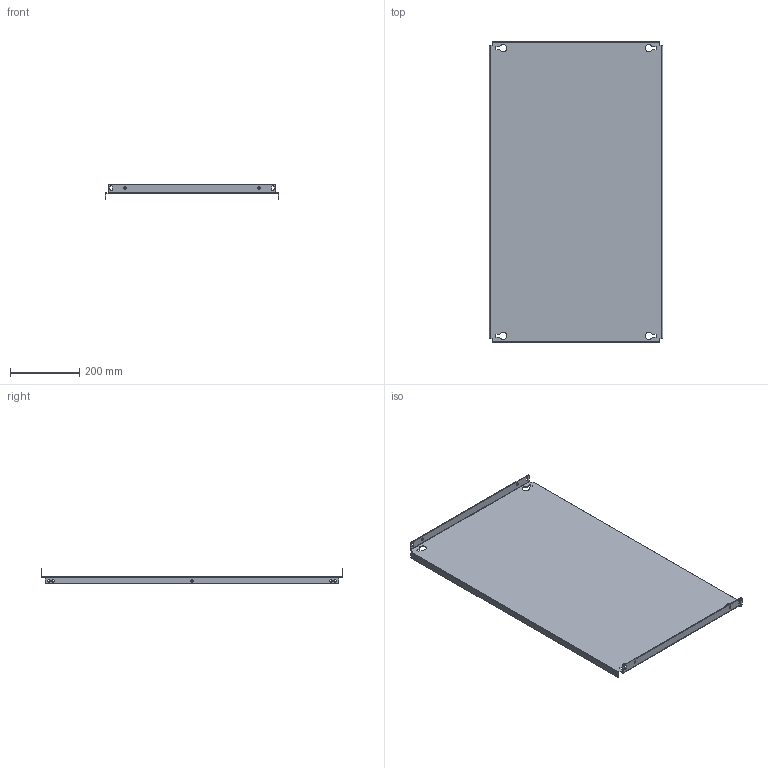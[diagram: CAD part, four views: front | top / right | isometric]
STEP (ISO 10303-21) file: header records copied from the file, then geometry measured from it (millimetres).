
FILE_DESCRIPTION (( 'STEP AP203' ), '1' );
FILE_NAME ('R5PPS9006.STEP', '2021-12-20T06:54:06', ( '' ), ( '' ), 'SwSTEP 2.0', 'SolidWorks 2020', '' );
FILE_SCHEMA (( 'CONFIG_CONTROL_DESIGN' ));
Length unit declared in the file: millimetre
Products named in the file (1): R5PPS9006
Bounding box: 500 x 869 x 43 mm (x, y, z)
Volume: 963136.4 mm3; surface area: 970527.3 mm2
Topology: 1 solids, 1 shells, 136 faces, 370 edges, 236 vertices
Faces by surface type: cylinder 78, plane 58
Entity records: 4479 total; most frequent: DIRECTION 800, CARTESIAN_POINT 743, ORIENTED_EDGE 740, EDGE_CURVE 370, AXIS2_PLACEMENT_3D 293, VERTEX_POINT 236, VECTOR 214, LINE 214
